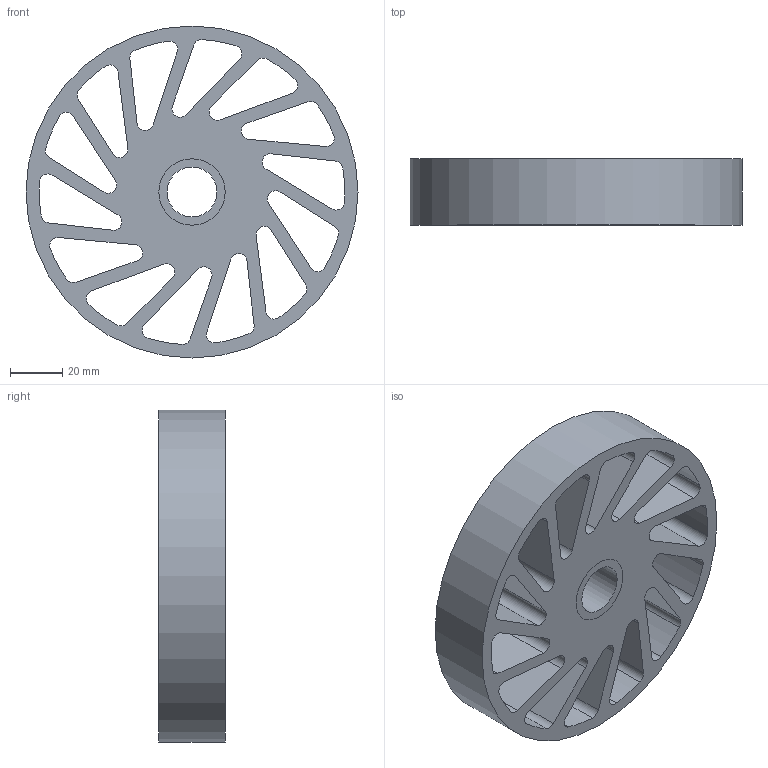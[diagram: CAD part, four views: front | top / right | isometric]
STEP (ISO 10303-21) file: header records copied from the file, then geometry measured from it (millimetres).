
FILE_DESCRIPTION(/* description */ (''),/* implementation_level */ '2;1');
FILE_NAME(/* name */ 'C:\Users\Owner\Desktop\Meridian Stuff\Oilite\NCWOB-470-XXX.stp',/* time_stamp */ '2023-05-22T17:08:53-05:00',/* author */ ('ASG'),/* organization */ ('Meridian Laboratory '),/* preprocessor_version */ 'ST-DEVELOPER v19',/* originating_system */ 'Autodesk Inventor 2023',/* authorisation */ '');
FILE_SCHEMA (('AUTOMOTIVE_DESIGN { 1 0 10303 214 3 1 1 }'));
Length unit declared in the file: inch
Products named in the file (1): NCWOB-440-XXX
Bounding box: 127 x 25.4 x 127 mm (x, y, z)
Volume: 173138.9 mm3; surface area: 60096.2 mm2
Topology: 2 solids, 2 shells, 92 faces, 264 edges, 176 vertices
Faces by surface type: cylinder 60, plane 32
Full cylindrical faces by diameter (mm): 19.101 x1, 25.4 x2, 127 x1
Entity records: 3285 total; most frequent: DIRECTION 570, CARTESIAN_POINT 533, ORIENTED_EDGE 528, EDGE_CURVE 264, AXIS2_PLACEMENT_3D 213, VERTEX_POINT 176, LINE 144, VECTOR 144
